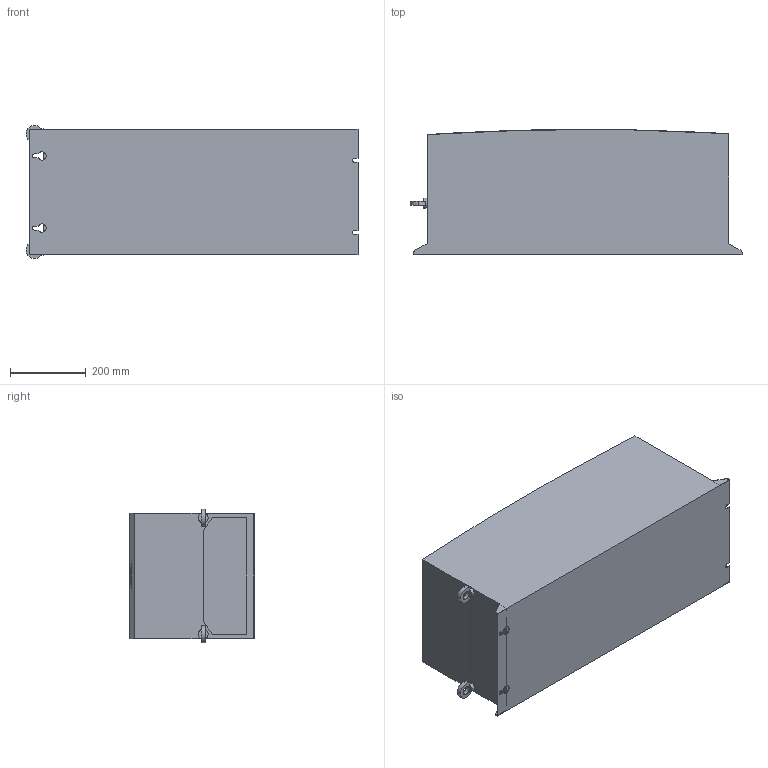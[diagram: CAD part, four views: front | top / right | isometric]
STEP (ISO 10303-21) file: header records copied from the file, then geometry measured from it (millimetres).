
FILE_DESCRIPTION (( 'STEP AP214' ), '1' );
FILE_NAME ('ECO S6 IP55.STEP', '2017-08-15T14:10:44', ( '' ), ( '' ), 'SwSTEP 2.0', 'SolidWorks 2017', '' );
FILE_SCHEMA (( 'AUTOMOTIVE_DESIGN' ));
Length unit declared in the file: millimetre
Products named in the file (1): ECO S6 IP55
Bounding box: 875 x 329.27 x 351.8 mm (x, y, z)
Volume: 85341176.2 mm3; surface area: 1310330.2 mm2
Topology: 1 solids, 1 shells, 261 faces, 676 edges, 448 vertices
Faces by surface type: cylinder 98, plane 85, bspline 78
Entity records: 11592 total; most frequent: CARTESIAN_POINT 5964, ORIENTED_EDGE 1352, DIRECTION 810, EDGE_CURVE 676, VERTEX_POINT 448, EDGE_LOOP 300, VECTOR 294, LINE 294
